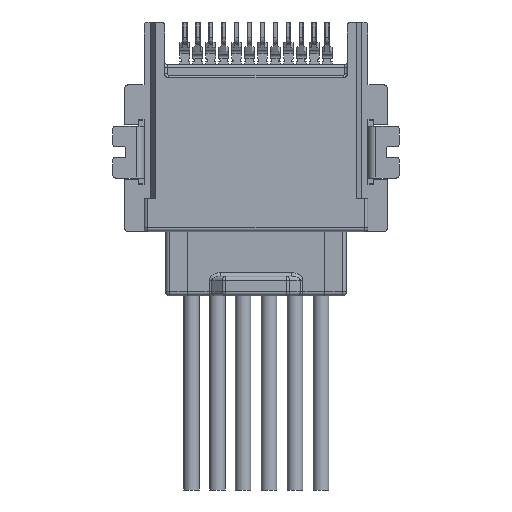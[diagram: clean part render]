
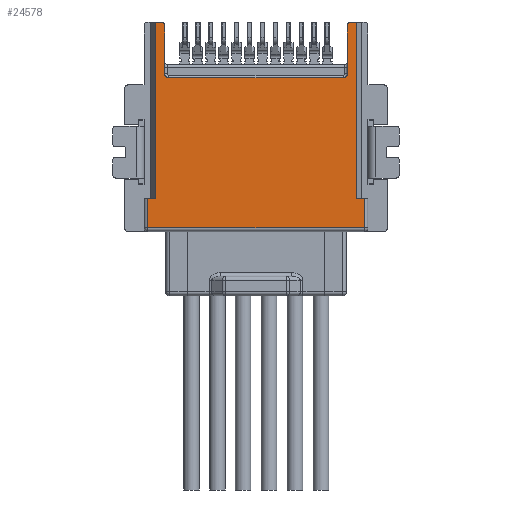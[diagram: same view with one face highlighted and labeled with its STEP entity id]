
A CAD part, front view. The second image highlights one B-rep face of the part: STEP entity #24578.
In plain terms, the highlighted planar face has unit normal (0, -1, 0).
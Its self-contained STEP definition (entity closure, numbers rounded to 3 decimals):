
#32 = CARTESIAN_POINT ( 'NONE',  ( 8.982, -6.26, -5.507 ) ) ;
#188 = DIRECTION ( 'NONE',  ( 0., -1., 0. ) ) ;
#351 = LINE ( 'NONE', #16278, #19224 ) ;
#366 = CARTESIAN_POINT ( 'NONE',  ( 8.582, -6.26, 8.143 ) ) ;
#371 = VECTOR ( 'NONE', #25945, 1000. ) ;
#382 = VERTEX_POINT ( 'NONE', #19133 ) ;
#423 = CARTESIAN_POINT ( 'NONE',  ( -7.118, -6.26, -7.757 ) ) ;
#888 = DIRECTION ( 'NONE',  ( 1., 0., 0. ) ) ;
#902 = CARTESIAN_POINT ( 'NONE',  ( -8.918, -6.26, 8.143 ) ) ;
#1211 = EDGE_CURVE ( 'NONE', #15490, #19782, #31497, .T. ) ;
#1366 = CARTESIAN_POINT ( 'NONE',  ( 8.282, -6.26, 1.943 ) ) ;
#2097 = CARTESIAN_POINT ( 'NONE',  ( -6.118, -6.26, 7.843 ) ) ;
#2504 = ORIENTED_EDGE ( 'NONE', *, *, #23108, .F. ) ;
#2611 = DIRECTION ( 'NONE',  ( 0., 0., -1. ) ) ;
#2834 = CARTESIAN_POINT ( 'NONE',  ( -7.118, -6.26, -8.057 ) ) ;
#3001 = ORIENTED_EDGE ( 'NONE', *, *, #31102, .T. ) ;
#3130 = VERTEX_POINT ( 'NONE', #24360 ) ;
#3645 = VECTOR ( 'NONE', #21400, 1000. ) ;
#3748 = CARTESIAN_POINT ( 'NONE',  ( -5.518, -6.26, 3.843 ) ) ;
#3855 = EDGE_CURVE ( 'NONE', #3862, #21840, #30496, .T. ) ;
#3862 = VERTEX_POINT ( 'NONE', #5791 ) ;
#3969 = VERTEX_POINT ( 'NONE', #27591 ) ;
#4078 = FACE_OUTER_BOUND ( 'NONE', #11493, .T. ) ;
#4515 = DIRECTION ( 'NONE',  ( 0., 0., -1. ) ) ;
#4591 = DIRECTION ( 'NONE',  ( 0., 0., 1. ) ) ;
#4689 = EDGE_CURVE ( 'NONE', #18931, #21840, #32046, .T. ) ;
#4692 = DIRECTION ( 'NONE',  ( 0., 0., -1. ) ) ;
#4813 = DIRECTION ( 'NONE',  ( 0., 1., 0. ) ) ;
#4882 = CARTESIAN_POINT ( 'NONE',  ( 9.582, -6.26, -5.507 ) ) ;
#4904 = EDGE_CURVE ( 'NONE', #3862, #19782, #11861, .T. ) ;
#5136 = CARTESIAN_POINT ( 'NONE',  ( 7.982, -6.26, 4.143 ) ) ;
#5791 = CARTESIAN_POINT ( 'NONE',  ( 8.282, -6.26, 4.143 ) ) ;
#5863 = ORIENTED_EDGE ( 'NONE', *, *, #9353, .T. ) ;
#6039 = CARTESIAN_POINT ( 'NONE',  ( -5.818, -6.26, 1.943 ) ) ;
#6581 = VERTEX_POINT ( 'NONE', #15253 ) ;
#6853 = VECTOR ( 'NONE', #2611, 1000. ) ;
#7226 = LINE ( 'NONE', #2834, #371 ) ;
#8064 = ORIENTED_EDGE ( 'NONE', *, *, #24100, .F. ) ;
#8379 = ORIENTED_EDGE ( 'NONE', *, *, #17289, .F. ) ;
#8795 = VERTEX_POINT ( 'NONE', #25987 ) ;
#9260 = CARTESIAN_POINT ( 'NONE',  ( -7.418, -6.26, -5.507 ) ) ;
#9353 = EDGE_CURVE ( 'NONE', #6581, #29572, #7226, .T. ) ;
#10266 = CARTESIAN_POINT ( 'NONE',  ( 8.982, -6.26, 8.743 ) ) ;
#10640 = CARTESIAN_POINT ( 'NONE',  ( 8.982, -6.26, 8.143 ) ) ;
#11118 = ORIENTED_EDGE ( 'NONE', *, *, #20345, .T. ) ;
#11169 = ORIENTED_EDGE ( 'NONE', *, *, #1211, .T. ) ;
#11301 = DIRECTION ( 'NONE',  ( 0., 0., -1. ) ) ;
#11472 = LINE ( 'NONE', #29974, #32036 ) ;
#11493 = EDGE_LOOP ( 'NONE', ( #24391, #3001, #19798, #11118, #24450, #21957, #2504, #5863, #29913, #19805, #17706, #8379, #8064, #11169, #30792, #16687 ) ) ;
#11722 = VECTOR ( 'NONE', #29223, 1000. ) ;
#11725 = AXIS2_PLACEMENT_3D ( 'NONE', #25667, #25662, #11301 ) ;
#11782 = CARTESIAN_POINT ( 'NONE',  ( -8.918, -6.26, 8.143 ) ) ;
#11861 = LINE ( 'NONE', #1366, #24682 ) ;
#12282 = CARTESIAN_POINT ( 'NONE',  ( 9.882, -6.26, -7.757 ) ) ;
#12551 = VERTEX_POINT ( 'NONE', #25288 ) ;
#12688 = CARTESIAN_POINT ( 'NONE',  ( -5.518, -6.26, 4.143 ) ) ;
#12927 = AXIS2_PLACEMENT_3D ( 'NONE', #12688, #30731, #15277 ) ;
#12994 = PLANE ( 'NONE',  #27839 ) ;
#13680 = LINE ( 'NONE', #10266, #6853 ) ;
#13730 = LINE ( 'NONE', #11782, #27378 ) ;
#14078 = DIRECTION ( 'NONE',  ( 1., 0., 0. ) ) ;
#14523 = DIRECTION ( 'NONE',  ( 0., 0., 1. ) ) ;
#15061 = LINE ( 'NONE', #12282, #29565 ) ;
#15253 = CARTESIAN_POINT ( 'NONE',  ( -7.118, -6.26, -5.507 ) ) ;
#15277 = DIRECTION ( 'NONE',  ( 0., 0., -1. ) ) ;
#15325 = VERTEX_POINT ( 'NONE', #4882 ) ;
#15390 = VERTEX_POINT ( 'NONE', #32 ) ;
#15490 = VERTEX_POINT ( 'NONE', #366 ) ;
#16167 = LINE ( 'NONE', #9260, #21380 ) ;
#16278 = CARTESIAN_POINT ( 'NONE',  ( 9.882, -6.26, -5.507 ) ) ;
#16687 = ORIENTED_EDGE ( 'NONE', *, *, #3855, .T. ) ;
#16714 = CIRCLE ( 'NONE', #26023, 0.3 ) ;
#17201 = VECTOR ( 'NONE', #4591, 1000. ) ;
#17289 = EDGE_CURVE ( 'NONE', #26274, #15390, #13680, .T. ) ;
#17301 = LINE ( 'NONE', #6039, #3645 ) ;
#17706 = ORIENTED_EDGE ( 'NONE', *, *, #25784, .F. ) ;
#18168 = DIRECTION ( 'NONE',  ( 0., 0., -1. ) ) ;
#18547 = LINE ( 'NONE', #902, #11722 ) ;
#18931 = VERTEX_POINT ( 'NONE', #3748 ) ;
#19133 = CARTESIAN_POINT ( 'NONE',  ( -5.818, -6.26, 7.843 ) ) ;
#19224 = VECTOR ( 'NONE', #888, 1000. ) ;
#19782 = VERTEX_POINT ( 'NONE', #30715 ) ;
#19798 = ORIENTED_EDGE ( 'NONE', *, *, #24785, .T. ) ;
#19805 = ORIENTED_EDGE ( 'NONE', *, *, #26090, .T. ) ;
#20059 = DIRECTION ( 'NONE',  ( 0., -1., 0. ) ) ;
#20345 = EDGE_CURVE ( 'NONE', #382, #12551, #16714, .T. ) ;
#21380 = VECTOR ( 'NONE', #24560, 1000. ) ;
#21400 = DIRECTION ( 'NONE',  ( 0., 0., 1. ) ) ;
#21543 = EDGE_CURVE ( 'NONE', #3130, #8795, #11472, .T. ) ;
#21612 = EDGE_CURVE ( 'NONE', #29572, #27593, #15061, .T. ) ;
#21840 = VERTEX_POINT ( 'NONE', #26189 ) ;
#21957 = ORIENTED_EDGE ( 'NONE', *, *, #21543, .F. ) ;
#22221 = CARTESIAN_POINT ( 'NONE',  ( -7.418, -6.26, 3.843 ) ) ;
#23108 = EDGE_CURVE ( 'NONE', #6581, #3130, #16167, .T. ) ;
#24100 = EDGE_CURVE ( 'NONE', #15490, #26274, #18547, .T. ) ;
#24257 = EDGE_CURVE ( 'NONE', #8795, #12551, #13730, .T. ) ;
#24360 = CARTESIAN_POINT ( 'NONE',  ( -6.518, -6.26, -5.507 ) ) ;
#24391 = ORIENTED_EDGE ( 'NONE', *, *, #4689, .F. ) ;
#24450 = ORIENTED_EDGE ( 'NONE', *, *, #24257, .F. ) ;
#24560 = DIRECTION ( 'NONE',  ( 1., 0., 0. ) ) ;
#24578 = ADVANCED_FACE ( 'NONE', ( #4078 ), #12994, .T. ) ;
#24682 = VECTOR ( 'NONE', #29891, 1000. ) ;
#24785 = EDGE_CURVE ( 'NONE', #3969, #382, #17301, .T. ) ;
#25117 = VECTOR ( 'NONE', #14078, 1000. ) ;
#25288 = CARTESIAN_POINT ( 'NONE',  ( -6.118, -6.26, 8.143 ) ) ;
#25662 = DIRECTION ( 'NONE',  ( 0., -1., 0. ) ) ;
#25667 = CARTESIAN_POINT ( 'NONE',  ( 8.582, -6.26, 7.843 ) ) ;
#25784 = EDGE_CURVE ( 'NONE', #15390, #15325, #351, .T. ) ;
#25945 = DIRECTION ( 'NONE',  ( 0., 0., -1. ) ) ;
#25987 = CARTESIAN_POINT ( 'NONE',  ( -6.518, -6.26, 8.143 ) ) ;
#26023 = AXIS2_PLACEMENT_3D ( 'NONE', #2097, #20059, #4692 ) ;
#26090 = EDGE_CURVE ( 'NONE', #27593, #15325, #30951, .T. ) ;
#26189 = CARTESIAN_POINT ( 'NONE',  ( 7.982, -6.26, 3.843 ) ) ;
#26274 = VERTEX_POINT ( 'NONE', #10640 ) ;
#27159 = DIRECTION ( 'NONE',  ( 1., 0., 0. ) ) ;
#27378 = VECTOR ( 'NONE', #27159, 1000. ) ;
#27591 = CARTESIAN_POINT ( 'NONE',  ( -5.818, -6.26, 4.143 ) ) ;
#27593 = VERTEX_POINT ( 'NONE', #29923 ) ;
#27673 = DIRECTION ( 'NONE',  ( 1., 0., 0. ) ) ;
#27703 = CARTESIAN_POINT ( 'NONE',  ( 9.582, -6.26, -8.057 ) ) ;
#27714 = AXIS2_PLACEMENT_3D ( 'NONE', #5136, #4813, #4515 ) ;
#27839 = AXIS2_PLACEMENT_3D ( 'NONE', #31059, #188, #18168 ) ;
#29223 = DIRECTION ( 'NONE',  ( 1., 0., 0. ) ) ;
#29565 = VECTOR ( 'NONE', #27673, 1000. ) ;
#29572 = VERTEX_POINT ( 'NONE', #423 ) ;
#29891 = DIRECTION ( 'NONE',  ( 0., 0., 1. ) ) ;
#29913 = ORIENTED_EDGE ( 'NONE', *, *, #21612, .T. ) ;
#29923 = CARTESIAN_POINT ( 'NONE',  ( 9.582, -6.26, -7.757 ) ) ;
#29974 = CARTESIAN_POINT ( 'NONE',  ( -6.518, -6.26, 8.743 ) ) ;
#30256 = CIRCLE ( 'NONE', #12927, 0.3 ) ;
#30496 = CIRCLE ( 'NONE', #27714, 0.3 ) ;
#30715 = CARTESIAN_POINT ( 'NONE',  ( 8.282, -6.26, 7.843 ) ) ;
#30731 = DIRECTION ( 'NONE',  ( 0., 1., 0. ) ) ;
#30792 = ORIENTED_EDGE ( 'NONE', *, *, #4904, .F. ) ;
#30951 = LINE ( 'NONE', #27703, #17201 ) ;
#31059 = CARTESIAN_POINT ( 'NONE',  ( -7.418, -6.26, -8.057 ) ) ;
#31102 = EDGE_CURVE ( 'NONE', #18931, #3969, #30256, .T. ) ;
#31497 = CIRCLE ( 'NONE', #11725, 0.3 ) ;
#32036 = VECTOR ( 'NONE', #14523, 1000. ) ;
#32046 = LINE ( 'NONE', #22221, #25117 ) ;
